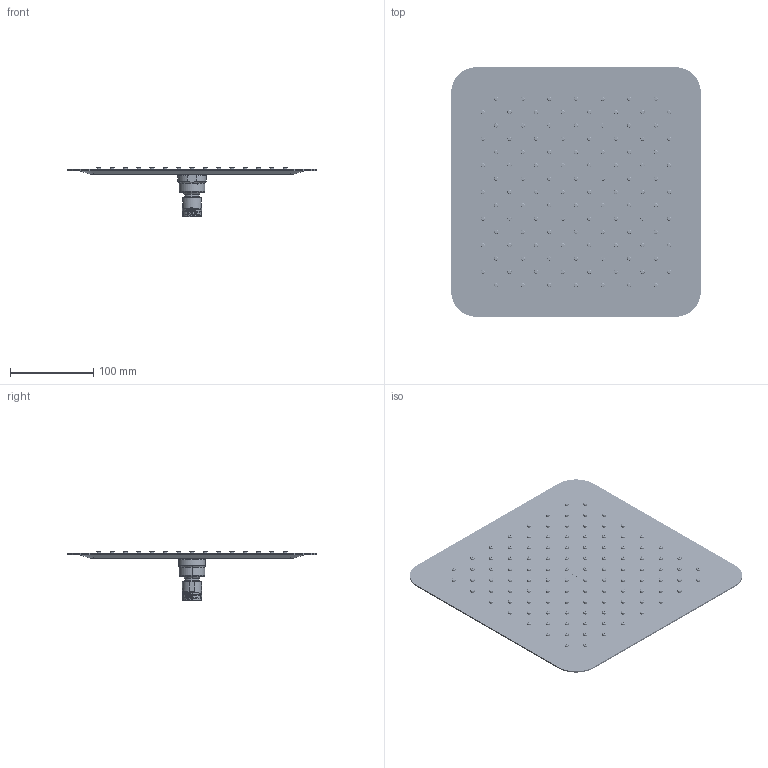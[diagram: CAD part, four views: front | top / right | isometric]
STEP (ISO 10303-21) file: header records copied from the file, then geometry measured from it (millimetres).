
FILE_DESCRIPTION (( 'STEP AP203' ), '1' );
FILE_NAME ('sku_S1004SERIES_stp.STEP', '2026-03-31T08:09:17', ( '' ), ( '' ), 'SwSTEP 2.0', 'SolidWorks 2025', '' );
FILE_SCHEMA (( 'CONFIG_CONTROL_DESIGN' ));
Products named in the file (1): sku_S1004SERIES_stp
Bounding box: 300 x 300 x 59.75 mm (x, y, z)
Volume: 263128.6 mm3; surface area: 436441.1 mm2
Topology: 2 solids, 6 shells, 3041 faces, 7476 edges, 4587 vertices
Faces by surface type: cylinder 778, torus 714, bspline 595, plane 482, cone 468, sphere 4
Entity records: 124114 total; most frequent: CARTESIAN_POINT 53794, ORIENTED_EDGE 14928, DIRECTION 14208, EDGE_CURVE 7464, AXIS2_PLACEMENT_3D 5919, VERTEX_POINT 4581, EDGE_LOOP 3611, CIRCLE 3472
